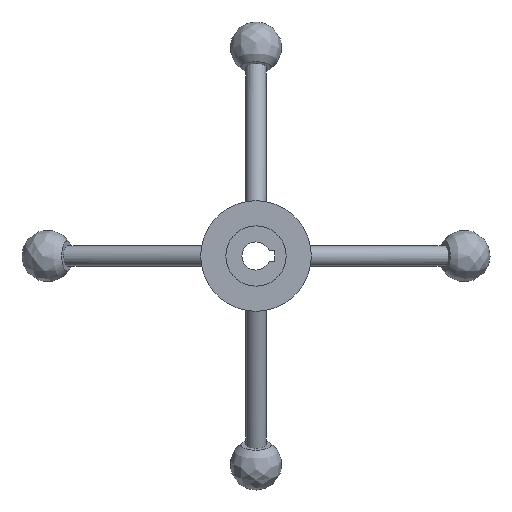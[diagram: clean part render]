
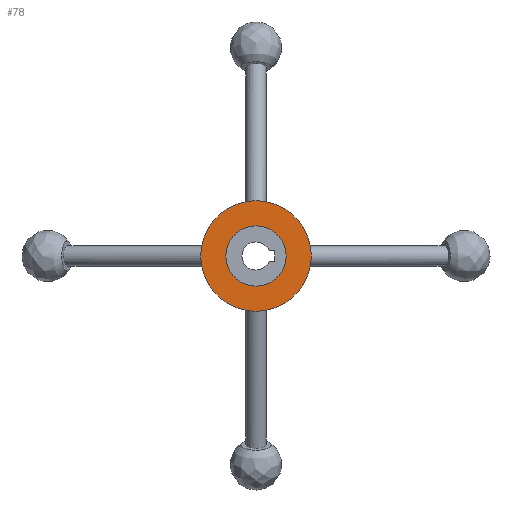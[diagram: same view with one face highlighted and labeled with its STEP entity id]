
A CAD part, front view. The second image highlights one B-rep face of the part: STEP entity #78.
In plain terms, the highlighted planar face has unit normal (0, -1, 0).
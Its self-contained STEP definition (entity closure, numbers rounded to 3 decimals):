
#78 = ADVANCED_FACE( '', ( #107, #108 ), #109, .F. );
#107 = FACE_BOUND( '', #173, .T. );
#108 = FACE_OUTER_BOUND( '', #174, .T. );
#109 = PLANE( '', #175 );
#173 = EDGE_LOOP( '', ( #384 ) );
#174 = EDGE_LOOP( '', ( #385 ) );
#175 = AXIS2_PLACEMENT_3D( '', #386, #387, #388 );
#384 = ORIENTED_EDGE( '', *, *, #489, .F. );
#385 = ORIENTED_EDGE( '', *, *, #490, .T. );
#386 = CARTESIAN_POINT( '', ( 27.5, 10., 0. ) );
#387 = DIRECTION( '', ( 0., 1., 0. ) );
#388 = DIRECTION( '', ( 0., 0., 1. ) );
#489 = EDGE_CURVE( '', #529, #529, #530, .T. );
#490 = EDGE_CURVE( '', #531, #531, #532, .T. );
#529 = VERTEX_POINT( '', #659 );
#530 = CIRCLE( '', #660, 15. );
#531 = VERTEX_POINT( '', #661 );
#532 = CIRCLE( '', #662, 27.5 );
#659 = CARTESIAN_POINT( '', ( 0., 10., -15. ) );
#660 = AXIS2_PLACEMENT_3D( '', #933, #934, #935 );
#661 = CARTESIAN_POINT( '', ( 0., 10., -27.5 ) );
#662 = AXIS2_PLACEMENT_3D( '', #936, #937, #938 );
#933 = CARTESIAN_POINT( '', ( 0., 10., 0. ) );
#934 = DIRECTION( '', ( 0., -1., 0. ) );
#935 = DIRECTION( '', ( 0., 0., -1. ) );
#936 = CARTESIAN_POINT( '', ( 0., 10., 0. ) );
#937 = DIRECTION( '', ( 0., -1., 0. ) );
#938 = DIRECTION( '', ( 0., 0., -1. ) );
